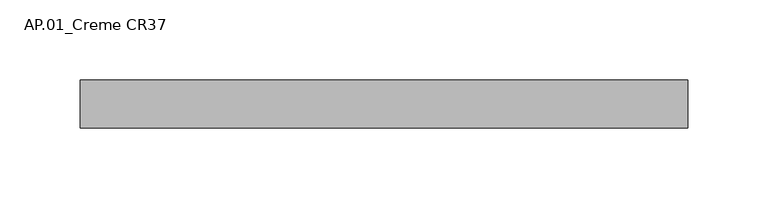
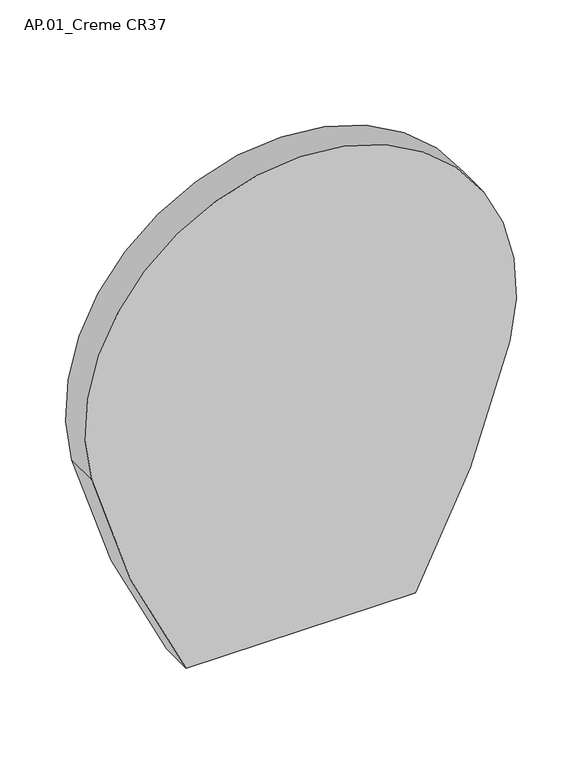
"""IFC4 building model written with IfcOpenShell, lengths in millimetres: flow terminal geometry, Deca_Shared_Assento_P.900 : AP.01_Creme CR37."""

from ifc_helpers import new_model, si_unit, point, frame, frame_2d, origin, place, context, project, spatial, polyline, circle_curve, trimmed, segment, composite_curve, outline, extrude, source, transform, mapped, element, save


def ap_01_creme_cr37_13e02e03(model_context):
    return source(origin(), model_context, "Body", "SweptSolid", [
        extrude(outline(composite_curve([segment(trimmed(circle_curve(frame_2d((393.1556954, -591.180351)), 799.6891514), [point((-7.4453362, 100.9334781))], [point((197.6093151, 184.2320245))], False, "CARTESIAN"), True, "CONTINUOUS"), segment(trimmed(circle_curve(frame_2d((244.0696331, 0.0)), 190.0), [point((197.6093151, 184.2320245))], [point((197.6093151, -184.2320245))], False, "CARTESIAN"), True, "CONTINUOUS"), segment(trimmed(circle_curve(frame_2d((393.1556954, 591.180351)), 799.6891514), [point((197.6093151, -184.2320245))], [point((-7.4453362, -100.9334781))], False, "CARTESIAN"), True, "CONTINUOUS"), segment(polyline([(-7.4453362, -100.9334781), (-7.4453362, 100.9334781)]), True, "CONTINUOUS")], self_intersect=False)), frame((0.0, 6.0125, 0.0), z_axis=(0.0, 1.0, 0.0), x_axis=(0.0, 0.0, 1.0)), (0.0, 0.0, 1.0), 30.0),
    ])


if __name__ == "__main__":
    model = new_model("IFC4")
    model_context = context("Model", 3, world=origin())
    ifc_project = project(units=[si_unit("LENGTHUNIT", "METRE", prefix="MILLI")], contexts=[model_context])
    site = spatial("IfcSite", under=ifc_project)
    building = spatial("IfcBuilding", under=site)
    placement = place(None, origin())
    ap_01_creme_cr37_shape = ap_01_creme_cr37_13e02e03(model_context)
    element("IfcFlowTerminal", 1, ObjectType="Deca_Shared_Assento_P.900 : AP.01_Creme CR37", at=placement, inside=building, context=model_context, shape_type="MappedRepresentation", body=[
        mapped(ap_01_creme_cr37_shape, transform((0.0, 0.0, 0.0), x_axis=(1.0, 0.0, 0.0), y_axis=(0.0, 1.0, 0.0), z_axis=(0.0, 0.0, 1.0))),
    ])
    save(model, "model.ifc")
